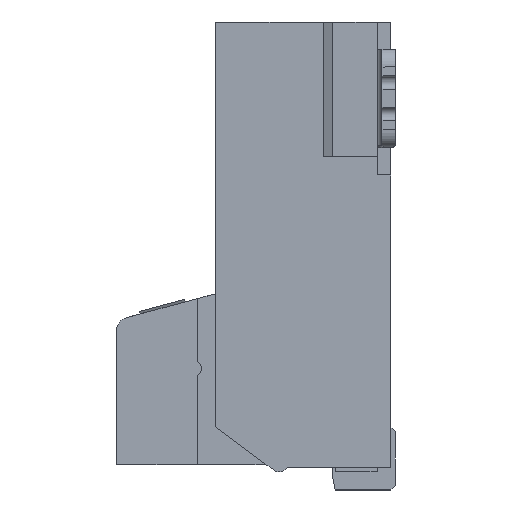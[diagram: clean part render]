
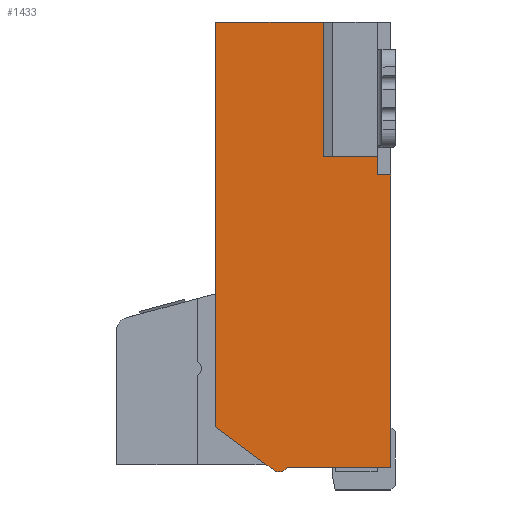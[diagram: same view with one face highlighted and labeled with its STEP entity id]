
A CAD part, left-side view. The second image highlights one B-rep face of the part: STEP entity #1433.
In plain terms, the highlighted planar face has unit normal (-1, 0, 0).
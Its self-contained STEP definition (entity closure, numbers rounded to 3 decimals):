
#40 = EDGE_CURVE ( 'NONE', #15879, #1383, #20662, .T. ) ;
#45 = EDGE_CURVE ( 'NONE', #14891, #14874, #20684, .T. ) ;
#48 = EDGE_CURVE ( 'NONE', #14869, #1383, #20693, .T. ) ;
#837 = EDGE_CURVE ( 'NONE', #15897, #15879, #22067, .T. ) ;
#931 = EDGE_CURVE ( 'NONE', #23678, #23431, #22159, .T. ) ;
#1383 = VERTEX_POINT ( 'NONE', #1804 ) ;
#1433 = ADVANCED_FACE ( 'NONE', ( #1959 ), #1960, .F. ) ;
#1804 = CARTESIAN_POINT ( 'NONE',  ( -14.25, 0.8, 5.2 ) ) ;
#1951 = CARTESIAN_POINT ( 'NONE',  ( -14.25, 0., 5.2 ) ) ;
#1959 = FACE_OUTER_BOUND ( 'NONE', #16156, .T. ) ;
#1960 = PLANE ( 'NONE',  #8407 ) ;
#1962 = DIRECTION ( 'NONE',  ( 1., 0., 0. ) ) ;
#1963 = DIRECTION ( 'NONE',  ( 0., 0., -1. ) ) ;
#3110 = CARTESIAN_POINT ( 'NONE',  ( -14.25, 1.349, 0.22 ) ) ;
#3128 = CARTESIAN_POINT ( 'NONE',  ( -14.25, 0.8, 3.7 ) ) ;
#3133 = CARTESIAN_POINT ( 'NONE',  ( -14.25, 0.2, 3.5 ) ) ;
#3143 = CARTESIAN_POINT ( 'NONE',  ( -14.25, 1.205, 0.248 ) ) ;
#3150 = CARTESIAN_POINT ( 'NONE',  ( -14.25, 0.2, 3.7 ) ) ;
#4305 = CARTESIAN_POINT ( 'NONE',  ( -14.25, 1.29, 0.3 ) ) ;
#4306 = DIRECTION ( 'NONE',  ( -1., 0., 0. ) ) ;
#4307 = DIRECTION ( 'NONE',  ( 0., 0., 1. ) ) ;
#4322 = LINE ( 'NONE', #4323, #12550 ) ;
#4323 = CARTESIAN_POINT ( 'NONE',  ( -14.25, 0.05, 3.7 ) ) ;
#4324 = DIRECTION ( 'NONE',  ( 0., -1., 0. ) ) ;
#4349 = LINE ( 'NONE', #4350, #12526 ) ;
#4350 = CARTESIAN_POINT ( 'NONE',  ( -14.25, 1.205, 0.248 ) ) ;
#4351 = DIRECTION ( 'NONE',  ( 0., -1., 0. ) ) ;
#4352 = LINE ( 'NONE', #4353, #12561 ) ;
#4353 = CARTESIAN_POINT ( 'NONE',  ( -14.25, 0.05, 3.5 ) ) ;
#4354 = DIRECTION ( 'NONE',  ( 0., -1., 0. ) ) ;
#4387 = LINE ( 'NONE', #4389, #12530 ) ;
#4389 = CARTESIAN_POINT ( 'NONE',  ( -14.25, 1.932, 0.65 ) ) ;
#4390 = DIRECTION ( 'NONE',  ( 0., -0.804, -0.594 ) ) ;
#5085 = VECTOR ( 'NONE', #20696, 1000. ) ;
#5155 = VECTOR ( 'NONE', #20686, 1000. ) ;
#5162 = VECTOR ( 'NONE', #20672, 1000. ) ;
#5314 = VECTOR ( 'NONE', #22079, 1000. ) ;
#5441 = VECTOR ( 'NONE', #22211, 1000. ) ;
#5575 = CARTESIAN_POINT ( 'NONE',  ( -14.25, 2., 5.2 ) ) ;
#5583 = CARTESIAN_POINT ( 'NONE',  ( -14.25, 2., 0.7 ) ) ;
#8407 = AXIS2_PLACEMENT_3D ( 'NONE', #1951, #1962, #1963 ) ;
#12526 = VECTOR ( 'NONE', #4351, 1000. ) ;
#12529 = AXIS2_PLACEMENT_3D ( 'NONE', #4305, #4306, #4307 ) ;
#12530 = VECTOR ( 'NONE', #4390, 1000. ) ;
#12531 = CIRCLE ( 'NONE', #12529, 0.1 ) ;
#12550 = VECTOR ( 'NONE', #4324, 1000. ) ;
#12561 = VECTOR ( 'NONE', #4354, 1000. ) ;
#13278 = CARTESIAN_POINT ( 'NONE',  ( -14.25, 0.05, 0.248 ) ) ;
#13452 = CARTESIAN_POINT ( 'NONE',  ( -14.25, 0.05, 3.5 ) ) ;
#14851 = VERTEX_POINT ( 'NONE', #3110 ) ;
#14869 = VERTEX_POINT ( 'NONE', #3128 ) ;
#14874 = VERTEX_POINT ( 'NONE', #3133 ) ;
#14884 = VERTEX_POINT ( 'NONE', #3143 ) ;
#14891 = VERTEX_POINT ( 'NONE', #3150 ) ;
#15660 = EDGE_CURVE ( 'NONE', #14851, #14884, #12531, .T. ) ;
#15666 = EDGE_CURVE ( 'NONE', #14869, #14891, #4322, .T. ) ;
#15675 = EDGE_CURVE ( 'NONE', #14884, #23431, #4349, .T. ) ;
#15676 = EDGE_CURVE ( 'NONE', #14874, #23678, #4352, .T. ) ;
#15688 = EDGE_CURVE ( 'NONE', #15897, #14851, #4387, .T. ) ;
#15879 = VERTEX_POINT ( 'NONE', #5575 ) ;
#15897 = VERTEX_POINT ( 'NONE', #5583 ) ;
#16156 = EDGE_LOOP ( 'NONE', ( #17747, #17749, #17751, #17752, #17754, #17755, #17756, #17757, #17758, #17759 ) ) ;
#17747 = ORIENTED_EDGE ( 'NONE', *, *, #15675, .T. ) ;
#17749 = ORIENTED_EDGE ( 'NONE', *, *, #931, .F. ) ;
#17751 = ORIENTED_EDGE ( 'NONE', *, *, #15676, .F. ) ;
#17752 = ORIENTED_EDGE ( 'NONE', *, *, #45, .F. ) ;
#17754 = ORIENTED_EDGE ( 'NONE', *, *, #15666, .F. ) ;
#17755 = ORIENTED_EDGE ( 'NONE', *, *, #48, .T. ) ;
#17756 = ORIENTED_EDGE ( 'NONE', *, *, #40, .F. ) ;
#17757 = ORIENTED_EDGE ( 'NONE', *, *, #837, .F. ) ;
#17758 = ORIENTED_EDGE ( 'NONE', *, *, #15688, .T. ) ;
#17759 = ORIENTED_EDGE ( 'NONE', *, *, #15660, .T. ) ;
#20662 = LINE ( 'NONE', #20670, #5162 ) ;
#20670 = CARTESIAN_POINT ( 'NONE',  ( -14.25, 2., 5.2 ) ) ;
#20672 = DIRECTION ( 'NONE',  ( 0., -1., 0. ) ) ;
#20684 = LINE ( 'NONE', #20685, #5155 ) ;
#20685 = CARTESIAN_POINT ( 'NONE',  ( -14.25, 0.2, 3.5 ) ) ;
#20686 = DIRECTION ( 'NONE',  ( 0., 0., -1. ) ) ;
#20693 = LINE ( 'NONE', #20695, #5085 ) ;
#20695 = CARTESIAN_POINT ( 'NONE',  ( -14.25, 0.8, 3.7 ) ) ;
#20696 = DIRECTION ( 'NONE',  ( 0., 0., 1. ) ) ;
#22067 = LINE ( 'NONE', #22078, #5314 ) ;
#22078 = CARTESIAN_POINT ( 'NONE',  ( -14.25, 2., 0.2 ) ) ;
#22079 = DIRECTION ( 'NONE',  ( 0., 0., 1. ) ) ;
#22159 = LINE ( 'NONE', #22210, #5441 ) ;
#22210 = CARTESIAN_POINT ( 'NONE',  ( -14.25, 0.05, 0.65 ) ) ;
#22211 = DIRECTION ( 'NONE',  ( 0., 0., -1. ) ) ;
#23431 = VERTEX_POINT ( 'NONE', #13278 ) ;
#23678 = VERTEX_POINT ( 'NONE', #13452 ) ;
